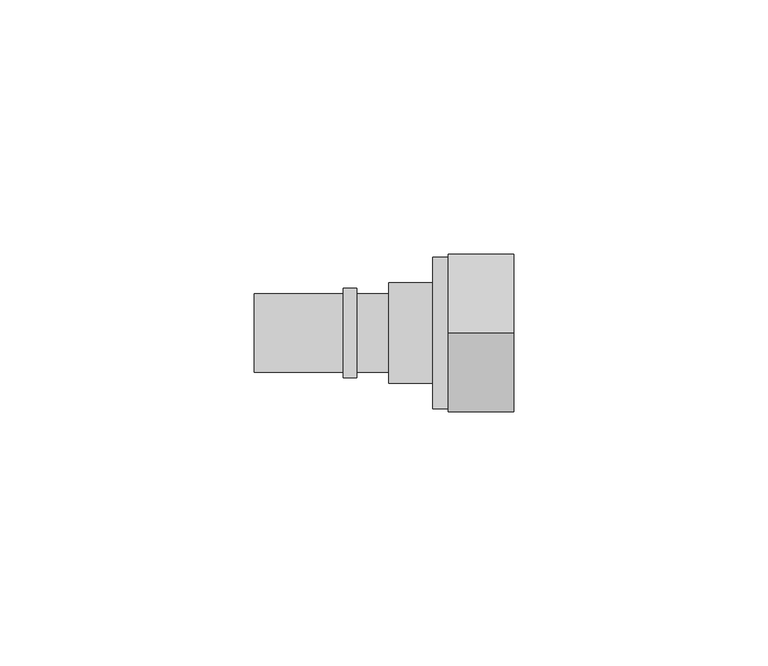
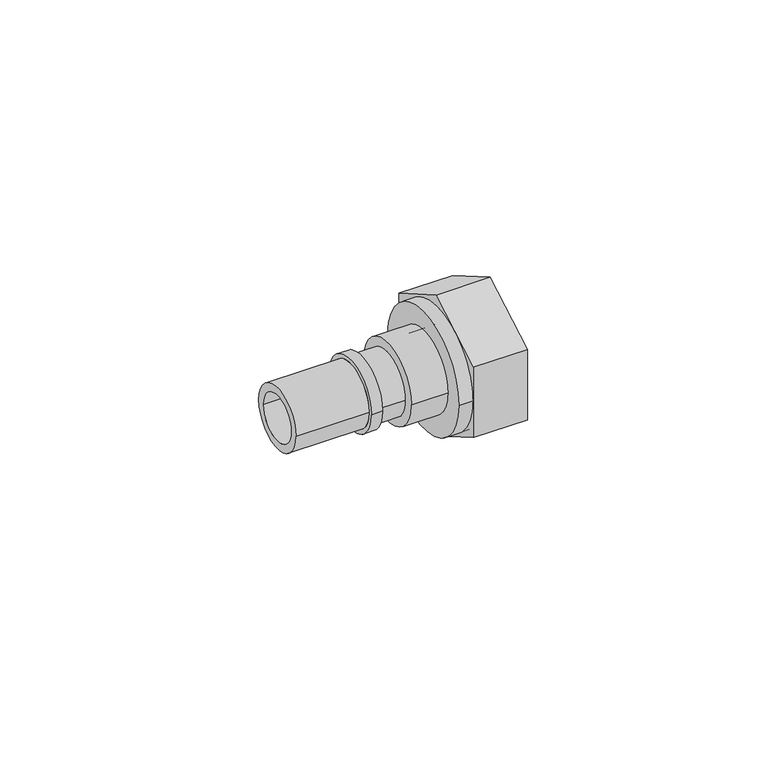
"""IFC4 building model written with IfcOpenShell, lengths in millimetres: pipe fitting geometry, FASTLOC_Adapter with union nut LX : FSL A union nut PL."""

from ifc_helpers import new_model, si_unit, point, frame, origin, origin_2d, place, context, project, spatial, polyline, circle_curve, trimmed, segment, composite_curve, outline, extrude, source, transform, mapped, element, save
from ifc_brep_helpers import plane_surface, cylinder_surface, revolved_surface, advanced_brep


def pipe_fitting_9a552a0b(model_context):
    return source(origin(), model_context, "Body", "SolidModel", [
        advanced_brep(
        [(12.0, 9.9, 0.0), (12.0, -9.9, 0.0), (0.0, -9.9, 0.0), (0.0, 9.9, 0.0), (14.0, 14.0, 0.0), (14.0, -14.0, 0.0), (12.0, -14.0, 0.0), (12.0, 14.0, 0.0), (1.4730817, 8.15, 0.0), (1.4730817, -8.15, 0.0), (14.0, -8.15, 0.0), (14.0, 8.15, 0.0), (0.0, 5.9764556, 0.0), (0.0, -5.9764556, 0.0), (1.4730817, -5.9764556, 0.0), (1.4730817, 5.9764556, 0.0)],
        [
            (0, 1, circle_curve(frame((12.0, 0.0, 0.0), z_axis=(-1.0, 0.0, 0.0), x_axis=(0.0, -1.0, 0.0)), 9.9)),
            (1, 2),
            (2, 3, circle_curve(frame((0.0, 0.0, 0.0), z_axis=(1.0, 0.0, 0.0), x_axis=(0.0, -1.0, 0.0)), 9.9)),
            (3, 0),
            (4, 5, circle_curve(frame((14.0, 0.0, 0.0), z_axis=(-1.0, 0.0, 0.0), x_axis=(0.0, -1.0, 0.0)), 14.0)),
            (5, 6),
            (6, 7, circle_curve(frame((12.0, 0.0, 0.0), z_axis=(1.0, 0.0, 0.0), x_axis=(0.0, -1.0, 0.0)), 14.0)),
            (7, 4),
            (8, 9, circle_curve(frame((1.4730817, 0.0, 0.0), z_axis=(-1.0, 0.0, 0.0), x_axis=(0.0, -1.0, 0.0)), 8.15)),
            (9, 10),
            (10, 11, circle_curve(frame((14.0, 0.0, 0.0), z_axis=(1.0, 0.0, 0.0), x_axis=(0.0, -1.0, 0.0)), 8.15)),
            (11, 8),
            (12, 13, circle_curve(frame((0.0, 0.0, 0.0), z_axis=(-1.0, 0.0, 0.0), x_axis=(0.0, -1.0, 0.0)), 5.9764556)),
            (13, 14),
            (14, 15, circle_curve(frame((1.4730817, 0.0, 0.0), z_axis=(1.0, 0.0, 0.0), x_axis=(0.0, -1.0, 0.0)), 5.9764556)),
            (15, 12),
            (2, 3, circle_curve(frame((0.0, 0.0, 0.0), z_axis=(-1.0, 0.0, 0.0), x_axis=(0.0, 1.0, 0.0)), 9.9)),
            (12, 13, circle_curve(frame((0.0, 0.0, 0.0), z_axis=(1.0, 0.0, 0.0), x_axis=(0.0, 1.0, 0.0)), 5.9764556)),
            (1, 0, circle_curve(frame((12.0, 0.0, 0.0), z_axis=(-1.0, 0.0, 0.0), x_axis=(0.0, 1.0, 0.0)), 9.9)),
            (6, 7, circle_curve(frame((12.0, 0.0, 0.0), z_axis=(-1.0, 0.0, 0.0), x_axis=(0.0, 1.0, 0.0)), 14.0)),
            (5, 4, circle_curve(frame((14.0, 0.0, 0.0), z_axis=(-1.0, 0.0, 0.0), x_axis=(0.0, 1.0, 0.0)), 14.0)),
            (10, 11, circle_curve(frame((14.0, 0.0, 0.0), z_axis=(-1.0, 0.0, 0.0), x_axis=(0.0, 1.0, 0.0)), 8.15)),
            (9, 8, circle_curve(frame((1.4730817, 0.0, 0.0), z_axis=(-1.0, 0.0, 0.0), x_axis=(0.0, 1.0, 0.0)), 8.15)),
            (14, 15, circle_curve(frame((1.4730817, 0.0, 0.0), z_axis=(-1.0, 0.0, 0.0), x_axis=(0.0, 1.0, 0.0)), 5.9764556)),
        ],
        [
            cylinder_surface(frame((0.0, 0.0, 0.0), z_axis=(1.0, 0.0, 0.0), x_axis=(0.0, -1.0, 0.0)), 9.9),
            cylinder_surface(frame((0.0, 0.0, 0.0), z_axis=(1.0, 0.0, 0.0), x_axis=(0.0, -1.0, 0.0)), 14.0),
            revolved_surface(polyline([(14.0, -8.15, 0.0), (1.4730817, -8.15, 0.0)]), (0.0, 0.0, 0.0), (1.0, 0.0, 0.0)),
            revolved_surface(polyline([(1.4730817, -5.9764556, 0.0), (0.0, -5.9764556, 0.0)]), (0.0, 0.0, 0.0), (1.0, 0.0, 0.0)),
            plane_surface(frame((0.0, 0.0, 0.0), z_axis=(-1.0, 0.0, 0.0), x_axis=(0.0, 1.0, 0.0))),
            cylinder_surface(frame((0.0, 0.0, 0.0), z_axis=(1.0, 0.0, 0.0), x_axis=(0.0, 1.0, 0.0)), 9.9),
            plane_surface(frame((12.0, 0.0, 0.0), z_axis=(-1.0, 0.0, 0.0), x_axis=(0.0, 1.0, 0.0))),
            cylinder_surface(frame((0.0, 0.0, 0.0), z_axis=(1.0, 0.0, 0.0), x_axis=(0.0, 1.0, 0.0)), 14.0),
            plane_surface(frame((14.0, 0.0, 0.0), z_axis=(1.0, 0.0, 0.0), x_axis=(0.0, 1.0, 0.0))),
            revolved_surface(polyline([(14.0, 8.15, 0.0), (1.4730817, 8.15, 0.0)]), (0.0, 0.0, 0.0), (1.0, 0.0, 0.0)),
            plane_surface(frame((1.4730817, 0.0, 0.0), z_axis=(1.0, 0.0, 0.0), x_axis=(0.0, 1.0, 0.0))),
            revolved_surface(polyline([(1.4730817, 5.9764556, 0.0), (0.0, 5.9764556, 0.0)]), (0.0, 0.0, 0.0), (1.0, 0.0, 0.0)),
        ],
        [
            (0, [[1, 2, 3, 4]]),
            (1, [[5, 6, 7, 8]]),
            (2, [[9, 10, 11, 12]]),
            (3, [[13, 14, 15, 16]]),
            (4, [[17, -3], [18, -13]]),
            (5, [[19, -4, -17, -2]]),
            (6, [[20, -7], [-19, -1]]),
            (7, [[21, -8, -20, -6]]),
            (8, [[-21, -5], [22, -11]]),
            (9, [[23, -12, -22, -10]]),
            (10, [[-23, -9], [24, -15]]),
            (11, [[-18, -16, -24, -14]]),
        ],
    ),
        advanced_brep(
        [(24.6, 14.9, 0.0), (24.6, -14.9, 0.0), (8.6, -14.9, 0.0), (8.6, 14.9, 0.0), (12.1, 12.0, 0.0), (12.1, -12.0, 0.0), (24.6, -12.0, 0.0), (24.6, 12.0, 0.0), (8.6, 8.5, 0.0), (8.6, -8.5, 0.0), (12.1, -8.5, 0.0), (12.1, 8.5, 0.0)],
        [
            (0, 1, circle_curve(frame((24.6, 0.0, 0.0), z_axis=(-1.0, 0.0, 0.0), x_axis=(0.0, -1.0, 0.0)), 14.9)),
            (1, 2),
            (2, 3, circle_curve(frame((8.6, 0.0, 0.0), z_axis=(1.0, 0.0, 0.0), x_axis=(0.0, -1.0, 0.0)), 14.9)),
            (3, 0),
            (4, 5, circle_curve(frame((12.1, 0.0, 0.0), z_axis=(-1.0, 0.0, 0.0), x_axis=(0.0, -1.0, 0.0)), 12.0)),
            (5, 6),
            (6, 7, circle_curve(frame((24.6, 0.0, 0.0), z_axis=(1.0, 0.0, 0.0), x_axis=(0.0, -1.0, 0.0)), 12.0)),
            (7, 4),
            (8, 9, circle_curve(frame((8.6, 0.0, 0.0), z_axis=(-1.0, 0.0, 0.0), x_axis=(0.0, -1.0, 0.0)), 8.5)),
            (9, 10),
            (10, 11, circle_curve(frame((12.1, 0.0, 0.0), z_axis=(1.0, 0.0, 0.0), x_axis=(0.0, -1.0, 0.0)), 8.5)),
            (11, 8),
            (1, 0, circle_curve(frame((24.6, 0.0, 0.0), z_axis=(-1.0, 0.0, 0.0), x_axis=(0.0, 1.0, 0.0)), 14.9)),
            (3, 2, circle_curve(frame((8.6, 0.0, 0.0), z_axis=(1.0, 0.0, 0.0), x_axis=(0.0, 1.0, 0.0)), 14.9)),
            (6, 7, circle_curve(frame((24.6, 0.0, 0.0), z_axis=(-1.0, 0.0, 0.0), x_axis=(0.0, 1.0, 0.0)), 12.0)),
            (5, 4, circle_curve(frame((12.1, 0.0, 0.0), z_axis=(-1.0, 0.0, 0.0), x_axis=(0.0, 1.0, 0.0)), 12.0)),
            (10, 11, circle_curve(frame((12.1, 0.0, 0.0), z_axis=(-1.0, 0.0, 0.0), x_axis=(0.0, 1.0, 0.0)), 8.5)),
            (9, 8, circle_curve(frame((8.6, 0.0, 0.0), z_axis=(-1.0, 0.0, 0.0), x_axis=(0.0, 1.0, 0.0)), 8.5)),
        ],
        [
            cylinder_surface(frame((0.0, 0.0, 0.0), z_axis=(1.0, 0.0, 0.0), x_axis=(0.0, -1.0, 0.0)), 14.9),
            revolved_surface(polyline([(24.6, -12.0, 0.0), (12.1, -12.0, 0.0)]), (0.0, 0.0, 0.0), (1.0, 0.0, 0.0)),
            revolved_surface(polyline([(12.1, -8.5, 0.0), (8.6, -8.5, 0.0)]), (0.0, 0.0, 0.0), (1.0, 0.0, 0.0)),
            cylinder_surface(frame((0.0, 0.0, 0.0), z_axis=(1.0, 0.0, 0.0), x_axis=(0.0, 1.0, 0.0)), 14.9),
            plane_surface(frame((24.6, 0.0, 0.0), z_axis=(1.0, 0.0, 0.0), x_axis=(0.0, 1.0, 0.0))),
            revolved_surface(polyline([(24.6, 12.0, 0.0), (12.1, 12.0, 0.0)]), (0.0, 0.0, 0.0), (1.0, 0.0, 0.0)),
            plane_surface(frame((12.1, 0.0, 0.0), z_axis=(1.0, 0.0, 0.0), x_axis=(0.0, 1.0, 0.0))),
            revolved_surface(polyline([(12.1, 8.5, 0.0), (8.6, 8.5, 0.0)]), (0.0, 0.0, 0.0), (1.0, 0.0, 0.0)),
            plane_surface(frame((8.6, 0.0, 0.0), z_axis=(-1.0, 0.0, 0.0), x_axis=(0.0, 1.0, 0.0))),
        ],
        [
            (0, [[1, 2, 3, 4]]),
            (1, [[5, 6, 7, 8]]),
            (2, [[9, 10, 11, 12]]),
            (3, [[13, -4, 14, -2]]),
            (4, [[-13, -1], [15, -7]]),
            (5, [[16, -8, -15, -6]]),
            (6, [[-16, -5], [17, -11]]),
            (7, [[18, -12, -17, -10]]),
            (8, [[-14, -3], [-18, -9]]),
        ],
    ),
        extrude(outline(polyline([(0.0, -17.8978583), (-15.5, -8.9489292), (-15.5, 8.9489292), (0.0, 17.8978583), (15.5, 8.9489292), (15.5, -8.9489292), (0.0, -17.8978583)]), holes=[composite_curve([segment(trimmed(circle_curve(origin_2d(), 12.0), [point((-12.0, 0.0))], [point((12.0, 0.0))], True, "CARTESIAN"), True, "CONTINUOUS"), segment(trimmed(circle_curve(origin_2d(), 12.0), [point((12.0, 0.0))], [point((-12.0, 0.0))], True, "CARTESIAN"), True, "CONTINUOUS")], self_intersect=False)]), frame((11.7, 0.0, 0.0), z_axis=(1.0, 0.0, 0.0), x_axis=(0.0, 1.0, 0.0)), (0.0, 0.0, 1.0), 12.9),
        advanced_brep(
        [(-9.0, 7.75, 0.0), (-9.0, -7.75, 0.0), (-26.5, -7.75, 0.0), (-26.5, 7.75, 0.0), (-6.3, 8.8, 0.0), (-6.3, -8.8, 0.0), (-9.0, -8.8, 0.0), (-9.0, 8.8, 0.0), (0.0, 7.75, 0.0), (0.0, -7.75, 0.0), (-6.3, -7.75, 0.0), (-6.3, 7.75, 0.0), (-26.5, 5.75, 0.0), (-26.5, -5.75, 0.0), (0.0, -5.75, 0.0), (0.0, 5.75, 0.0)],
        [
            (0, 1, circle_curve(frame((-9.0, 0.0, 0.0), z_axis=(-1.0, 0.0, 0.0), x_axis=(0.0, -1.0, 0.0)), 7.75)),
            (1, 2),
            (2, 3, circle_curve(frame((-26.5, 0.0, 0.0), z_axis=(1.0, 0.0, 0.0), x_axis=(0.0, -1.0, 0.0)), 7.75)),
            (3, 0),
            (4, 5, circle_curve(frame((-6.3, 0.0, 0.0), z_axis=(-1.0, 0.0, 0.0), x_axis=(0.0, -1.0, 0.0)), 8.8)),
            (5, 6),
            (6, 7, circle_curve(frame((-9.0, 0.0, 0.0), z_axis=(1.0, 0.0, 0.0), x_axis=(0.0, -1.0, 0.0)), 8.8)),
            (7, 4),
            (8, 9, circle_curve(frame((0.0, 0.0, 0.0), z_axis=(-1.0, 0.0, 0.0), x_axis=(0.0, -1.0, 0.0)), 7.75)),
            (9, 10),
            (10, 11, circle_curve(frame((-6.3, 0.0, 0.0), z_axis=(1.0, 0.0, 0.0), x_axis=(0.0, -1.0, 0.0)), 7.75)),
            (11, 8),
            (12, 13, circle_curve(frame((-26.5, 0.0, 0.0), z_axis=(-1.0, 0.0, 0.0), x_axis=(0.0, -1.0, 0.0)), 5.75)),
            (13, 14),
            (14, 15, circle_curve(frame((0.0, 0.0, 0.0), z_axis=(1.0, 0.0, 0.0), x_axis=(0.0, -1.0, 0.0)), 5.75)),
            (15, 12),
            (2, 3, circle_curve(frame((-26.5, 0.0, 0.0), z_axis=(-1.0, 0.0, 0.0), x_axis=(0.0, 1.0, 0.0)), 7.75)),
            (12, 13, circle_curve(frame((-26.5, 0.0, 0.0), z_axis=(1.0, 0.0, 0.0), x_axis=(0.0, 1.0, 0.0)), 5.75)),
            (1, 0, circle_curve(frame((-9.0, 0.0, 0.0), z_axis=(-1.0, 0.0, 0.0), x_axis=(0.0, 1.0, 0.0)), 7.75)),
            (6, 7, circle_curve(frame((-9.0, 0.0, 0.0), z_axis=(-1.0, 0.0, 0.0), x_axis=(0.0, 1.0, 0.0)), 8.8)),
            (5, 4, circle_curve(frame((-6.3, 0.0, 0.0), z_axis=(-1.0, 0.0, 0.0), x_axis=(0.0, 1.0, 0.0)), 8.8)),
            (10, 11, circle_curve(frame((-6.3, 0.0, 0.0), z_axis=(-1.0, 0.0, 0.0), x_axis=(0.0, 1.0, 0.0)), 7.75)),
            (9, 8, circle_curve(frame((0.0, 0.0, 0.0), z_axis=(-1.0, 0.0, 0.0), x_axis=(0.0, 1.0, 0.0)), 7.75)),
            (14, 15, circle_curve(frame((0.0, 0.0, 0.0), z_axis=(-1.0, 0.0, 0.0), x_axis=(0.0, 1.0, 0.0)), 5.75)),
        ],
        [
            cylinder_surface(frame((0.0, 0.0, 0.0), z_axis=(1.0, 0.0, 0.0), x_axis=(0.0, -1.0, 0.0)), 7.75),
            cylinder_surface(frame((0.0, 0.0, 0.0), z_axis=(1.0, 0.0, 0.0), x_axis=(0.0, -1.0, 0.0)), 8.8),
            revolved_surface(polyline([(0.0, -5.75, 0.0), (-26.5, -5.75, 0.0)]), (0.0, 0.0, 0.0), (1.0, 0.0, 0.0)),
            plane_surface(frame((-26.5, 0.0, 0.0), z_axis=(-1.0, 0.0, 0.0), x_axis=(0.0, 1.0, 0.0))),
            cylinder_surface(frame((0.0, 0.0, 0.0), z_axis=(1.0, 0.0, 0.0), x_axis=(0.0, 1.0, 0.0)), 7.75),
            plane_surface(frame((-9.0, 0.0, 0.0), z_axis=(-1.0, 0.0, 0.0), x_axis=(0.0, 1.0, 0.0))),
            cylinder_surface(frame((0.0, 0.0, 0.0), z_axis=(1.0, 0.0, 0.0), x_axis=(0.0, 1.0, 0.0)), 8.8),
            plane_surface(frame((-6.3, 0.0, 0.0), z_axis=(1.0, 0.0, 0.0), x_axis=(0.0, 1.0, 0.0))),
            plane_surface(frame((0.0, 0.0, 0.0), z_axis=(1.0, 0.0, 0.0), x_axis=(0.0, 1.0, 0.0))),
            revolved_surface(polyline([(0.0, 5.75, 0.0), (-26.5, 5.75, 0.0)]), (0.0, 0.0, 0.0), (1.0, 0.0, 0.0)),
        ],
        [
            (0, [[1, 2, 3, 4]]),
            (1, [[5, 6, 7, 8]]),
            (0, [[9, 10, 11, 12]]),
            (2, [[13, 14, 15, 16]]),
            (3, [[17, -3], [18, -13]]),
            (4, [[19, -4, -17, -2]]),
            (5, [[20, -7], [-19, -1]]),
            (6, [[21, -8, -20, -6]]),
            (7, [[-21, -5], [22, -11]]),
            (4, [[23, -12, -22, -10]]),
            (8, [[-23, -9], [24, -15]]),
            (9, [[-18, -16, -24, -14]]),
        ],
    ),
    ])


if __name__ == "__main__":
    model = new_model("IFC4")
    model_context = context("Model", 3, world=origin())
    ifc_project = project(units=[si_unit("LENGTHUNIT", "METRE", prefix="MILLI")], contexts=[model_context])
    site = spatial("IfcSite", under=ifc_project)
    building = spatial("IfcBuilding", under=site)
    placement = place(None, origin())
    pipe_fitting_shape = pipe_fitting_9a552a0b(model_context)
    element("IfcPipeFitting", 1, ObjectType="FASTLOC_Adapter with union nut LX : FSL A union nut PL", at=placement, inside=building, context=model_context, shape_type="MappedRepresentation", body=[
        mapped(pipe_fitting_shape, transform((0.0, 0.0, 0.0), x_axis=(1.0, 0.0, 0.0), y_axis=(0.0, 1.0, 0.0), z_axis=(0.0, 0.0, 1.0))),
    ])
    save(model, "model.ifc")
